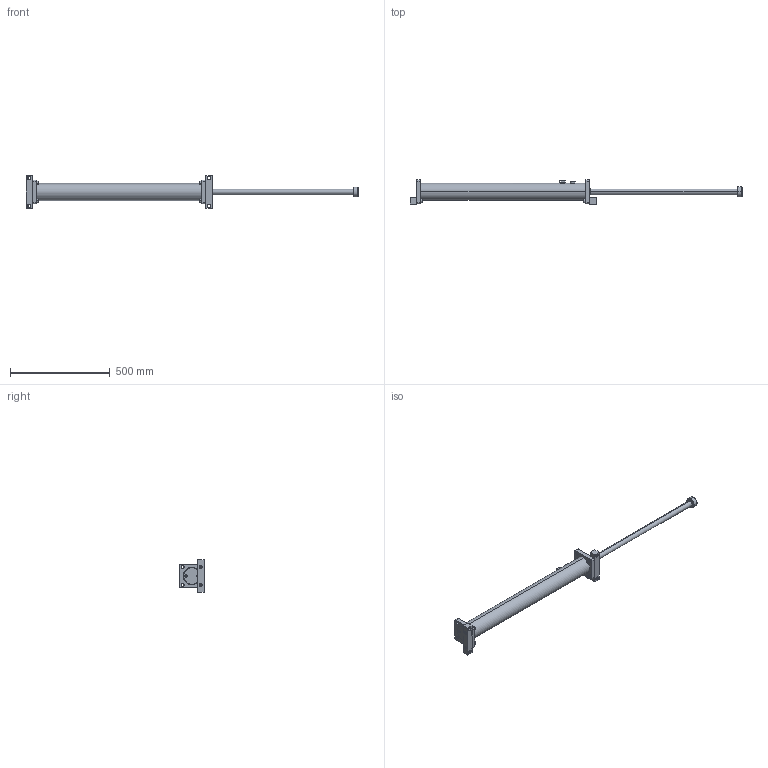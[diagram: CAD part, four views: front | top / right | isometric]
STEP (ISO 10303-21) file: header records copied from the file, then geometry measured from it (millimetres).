
FILE_DESCRIPTION (( 'STEP AP214' ), '1' );
FILE_NAME ('LDD1.5X28.STEP', '2019-01-16T05:48:58', ( 'user' ), ( 'Microsoft' ), 'SwSTEP 2.0', 'SolidWorks 2016', '' );
FILE_SCHEMA (( 'AUTOMOTIVE_DESIGN' ));
Length unit declared in the file: inch
Products named in the file (1): LDD1.5X28
Bounding box: 1661 x 121 x 165 mm (x, y, z)
Surface area: 447426.7 mm2 (no closed solid volume)
Topology: 0 solids, 24 shells, 266 faces, 729 edges, 488 vertices
Faces by surface type: plane 96, cylinder 79, cone 61, bspline 30
Entity records: 14127 total; most frequent: CARTESIAN_POINT 7418, DIRECTION 1415, ORIENTED_EDGE 1295, EDGE_CURVE 729, AXIS2_PLACEMENT_3D 553, VERTEX_POINT 488, EDGE_LOOP 324, CIRCLE 316
